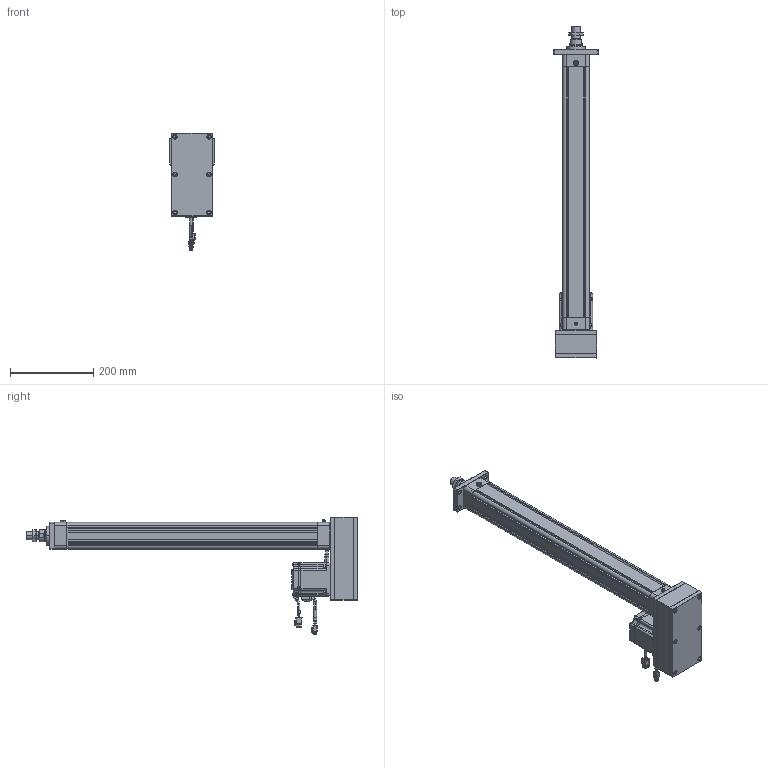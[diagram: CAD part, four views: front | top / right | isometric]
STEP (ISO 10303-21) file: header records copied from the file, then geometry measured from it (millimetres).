
FILE_DESCRIPTION((''),'2;1');
FILE_NAME('ASM0001_ASM','2020-04-16T',('ASUS20200'),(''),'CREO PARAMETRIC BY PTC INC, 2014190','CREO PARAMETRIC BY PTC INC, 2014190','');
FILE_SCHEMA(('CONFIG_CONTROL_DESIGN'));
Length unit declared in the file: millimetre
Products named in the file (31): HE50-D-P-001-X1; HE50-D-P-002-X1; HE50-D-P-003-X1; 6301ZZ; LGLM-M8-22; SLM-01; YZ-M6X1; HE50-P-010-X1-400W; _MHMF082L1A2; _CABLE_MOTOR_BOTTOM_05; _CABLE_MOTOR_TOP_05; _MOTOR_CONNECTOR_2; _CABLE_BRAKE_BOTTOM_05; _CABLE_BRAKE_TOP_05; _MHMF_CONNECTOR_9_PIN_A6; MHMF082L1A2M2_1_ASM; TD-6; M6X25; LM-M6X1; JX6X6X20; M6X25-DS; LM-M6-15; HE50-P-012-X1; HE50-P-013-X1; M6X60; HE50-D-P-005-X1; HE50-D-P-004-X1; HE50-D-P-008-X1; F-SE50FA; M8X16; ASM0001_ASM
Assembly tree (55 placements, depth 3):
  ASM0001_ASM
    HE50-D-P-001-X1
    HE50-D-P-002-X1
    HE50-D-P-003-X1
    6301ZZ
    LGLM-M8-22  x8
    SLM-01
    YZ-M6X1
    HE50-P-010-X1-400W
    MHMF082L1A2M2_1_ASM
      _MHMF082L1A2
      _CABLE_MOTOR_BOTTOM_05
      _CABLE_MOTOR_TOP_05
      _MOTOR_CONNECTOR_2
      _CABLE_BRAKE_BOTTOM_05
      _CABLE_BRAKE_TOP_05
      _MHMF_CONNECTOR_9_PIN_A6
    TD-6  x4
    M6X25  x4
    LM-M6X1  x5
    JX6X6X20
    M6X25-DS
    LM-M6-15
    HE50-P-012-X1
    HE50-P-013-X1
    M6X60  x6
    HE50-D-P-005-X1
    HE50-D-P-004-X1
    HE50-D-P-008-X1
    F-SE50FA
    M8X16  x4
Bounding box: 108 x 798.5 x 283.65 mm (x, y, z)
Volume: 2518570.3 mm3; surface area: 719602.6 mm2
Topology: 54 solids, 84 shells, 2871 faces, 6873 edges, 4270 vertices
Faces by surface type: plane 1216, cylinder 785, cone 671, torus 154, sphere 42, bspline 3
Entity records: 67975 total; most frequent: CARTESIAN_POINT 12752, DIRECTION 12169, ORIENTED_EDGE 10782, EDGE_CURVE 5441, AXIS2_PLACEMENT_3D 4570, VERTEX_POINT 3411, VECTOR 3029, LINE 3029
